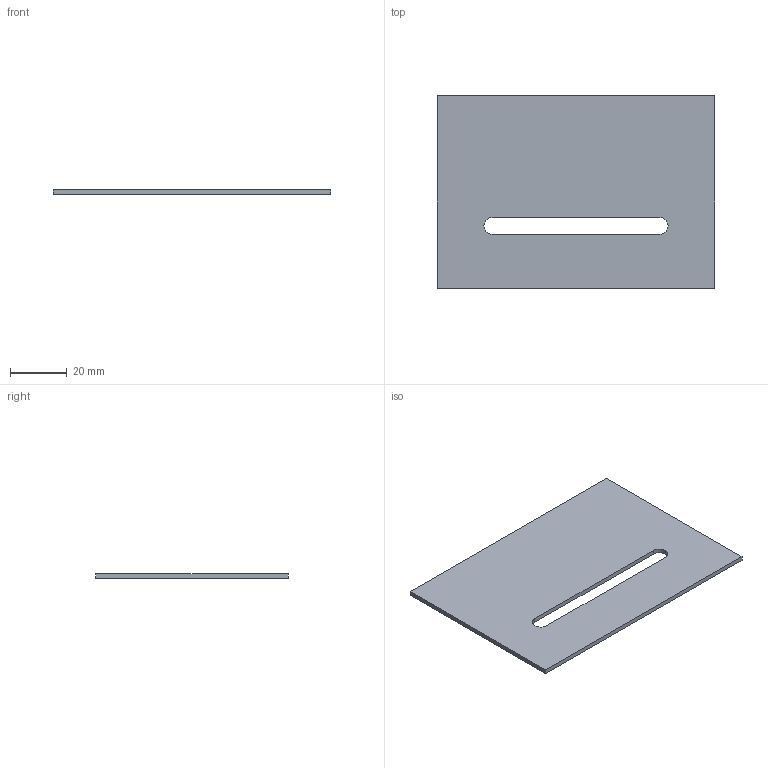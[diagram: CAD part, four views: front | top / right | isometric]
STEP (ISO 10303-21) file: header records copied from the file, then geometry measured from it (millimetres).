
FILE_DESCRIPTION(('Open CASCADE Model'),'2;1');
FILE_NAME('Open CASCADE Shape Model','2026-09-29T12:48:04',('Author'),( 'Open CASCADE'),'Open CASCADE STEP processor 7.9','Open CASCADE 7.9' ,'Unknown');
FILE_SCHEMA(('AUTOMOTIVE_DESIGN { 1 0 10303 214 1 1 1 1 }'));
Length unit declared in the file: millimetre
Products named in the file (1): Open CASCADE STEP translator 7.9 25
Bounding box: 98 x 67.85 x 1.6 mm (x, y, z)
Volume: 10027.2 mm3; surface area: 13283.7 mm2
Topology: 1 solids, 1 shells, 14 faces, 36 edges, 24 vertices
Faces by surface type: plane 10, cylinder 4
Entity records: 894 total; most frequent: CARTESIAN_POINT 163, DIRECTION 130, LINE 76, VECTOR 76, ORIENTED_EDGE 72, PCURVE 72, DEFINITIONAL_REPRESENTATION 72, EDGE_CURVE 36
